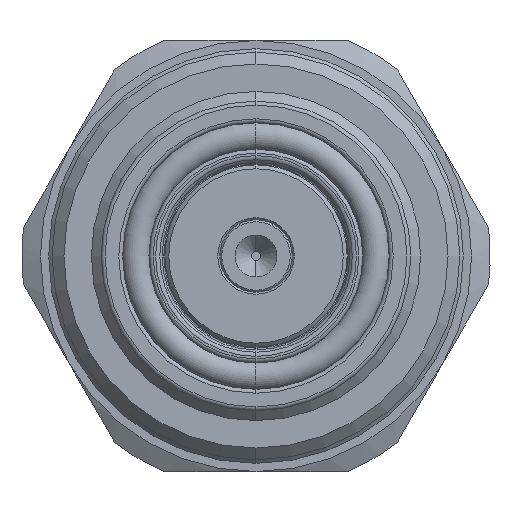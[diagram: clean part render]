
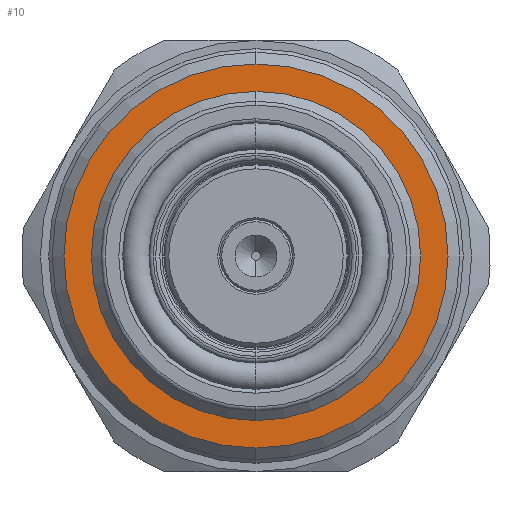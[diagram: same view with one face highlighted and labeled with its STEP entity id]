
A CAD part, left-side view. The second image highlights one B-rep face of the part: STEP entity #10.
In plain terms, the highlighted planar face has unit normal (-1, 0, 0).
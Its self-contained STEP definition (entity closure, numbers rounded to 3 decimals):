
#10 = ADVANCED_FACE ( 'NONE', ( #158, #156 ), #741, .F. ) ;
#156 = FACE_OUTER_BOUND ( 'NONE', #2394, .T. ) ;
#158 = FACE_BOUND ( 'NONE', #2451, .T. ) ;
#617 = CIRCLE ( 'NONE', #3549, 9.8 ) ;
#671 = CIRCLE ( 'NONE', #3587, 8.4 ) ;
#708 = DIRECTION ( 'NONE',  ( 0., 0., -1. ) ) ;
#728 = CARTESIAN_POINT ( 'NONE',  ( -2.883, 0., 0. ) ) ;
#735 = DIRECTION ( 'NONE',  ( 1., 0., 0. ) ) ;
#741 = PLANE ( 'NONE',  #3917 ) ;
#1196 = CARTESIAN_POINT ( 'NONE',  ( -2.883, 0., 9.8 ) ) ;
#1199 = CARTESIAN_POINT ( 'NONE',  ( -2.883, 0., -9.8 ) ) ;
#1220 = CARTESIAN_POINT ( 'NONE',  ( -2.883, 0., -8.4 ) ) ;
#1263 = CARTESIAN_POINT ( 'NONE',  ( -2.883, 0., 8.4 ) ) ;
#1742 = DIRECTION ( 'NONE',  ( 0., 0., 1. ) ) ;
#1749 = CARTESIAN_POINT ( 'NONE',  ( -2.883, 0., 0. ) ) ;
#1754 = DIRECTION ( 'NONE',  ( -1., 0., 0. ) ) ;
#1889 = DIRECTION ( 'NONE',  ( -1., 0., 0. ) ) ;
#1893 = DIRECTION ( 'NONE',  ( 0., 0., 1. ) ) ;
#1898 = CARTESIAN_POINT ( 'NONE',  ( -2.883, 0., 0. ) ) ;
#2041 = CARTESIAN_POINT ( 'NONE',  ( -2.883, 0., 0. ) ) ;
#2054 = DIRECTION ( 'NONE',  ( -1., 0., 0. ) ) ;
#2065 = DIRECTION ( 'NONE',  ( 0., 0., 1. ) ) ;
#2080 = DIRECTION ( 'NONE',  ( -1., 0., 0. ) ) ;
#2090 = CARTESIAN_POINT ( 'NONE',  ( -2.883, 0., 0. ) ) ;
#2112 = DIRECTION ( 'NONE',  ( 0., 0., 1. ) ) ;
#2394 = EDGE_LOOP ( 'NONE', ( #2720, #2752 ) ) ;
#2451 = EDGE_LOOP ( 'NONE', ( #2716, #2771 ) ) ;
#2716 = ORIENTED_EDGE ( 'NONE', *, *, #3835, .F. ) ;
#2720 = ORIENTED_EDGE ( 'NONE', *, *, #3715, .T. ) ;
#2752 = ORIENTED_EDGE ( 'NONE', *, *, #3904, .T. ) ;
#2771 = ORIENTED_EDGE ( 'NONE', *, *, #3892, .F. ) ;
#2862 = VERTEX_POINT ( 'NONE', #1199 ) ;
#2870 = VERTEX_POINT ( 'NONE', #1196 ) ;
#2871 = VERTEX_POINT ( 'NONE', #1220 ) ;
#2952 = VERTEX_POINT ( 'NONE', #1263 ) ;
#3221 = CIRCLE ( 'NONE', #3590, 8.4 ) ;
#3237 = CIRCLE ( 'NONE', #3638, 9.8 ) ;
#3549 = AXIS2_PLACEMENT_3D ( 'NONE', #1749, #1754, #1742 ) ;
#3587 = AXIS2_PLACEMENT_3D ( 'NONE', #1898, #1889, #1893 ) ;
#3590 = AXIS2_PLACEMENT_3D ( 'NONE', #2041, #2054, #2065 ) ;
#3638 = AXIS2_PLACEMENT_3D ( 'NONE', #2090, #2080, #2112 ) ;
#3715 = EDGE_CURVE ( 'NONE', #2862, #2870, #617, .T. ) ;
#3835 = EDGE_CURVE ( 'NONE', #2871, #2952, #671, .T. ) ;
#3892 = EDGE_CURVE ( 'NONE', #2952, #2871, #3221, .T. ) ;
#3904 = EDGE_CURVE ( 'NONE', #2870, #2862, #3237, .T. ) ;
#3917 = AXIS2_PLACEMENT_3D ( 'NONE', #728, #735, #708 ) ;
